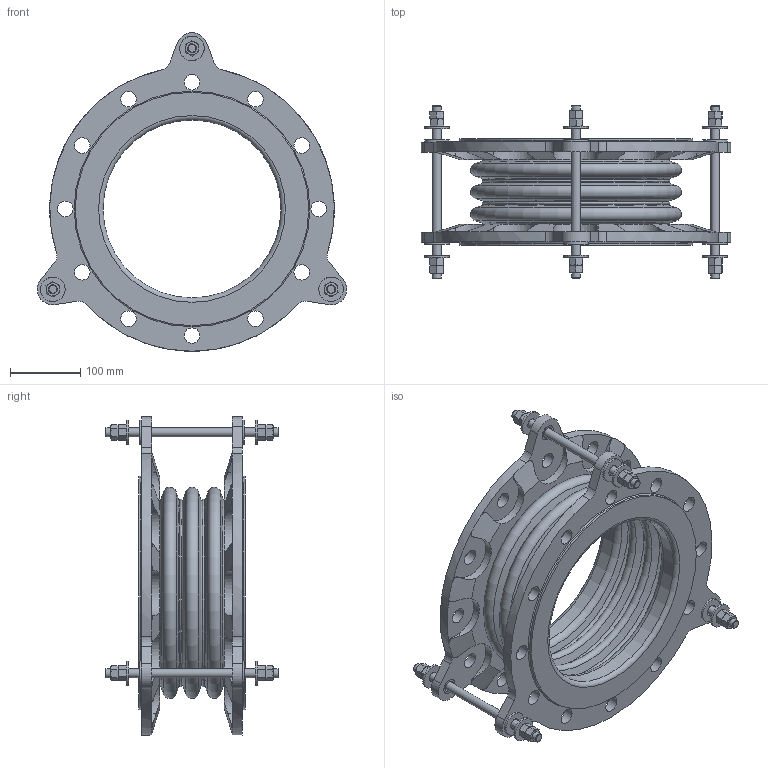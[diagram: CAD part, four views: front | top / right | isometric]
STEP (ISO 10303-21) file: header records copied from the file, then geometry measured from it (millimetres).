
FILE_DESCRIPTION(/* description */ (''),/* implementation_level */ '2;1');
FILE_NAME(/* name */ 'C:\Users\rramoutar\Desktop\803\803 10IDx6FF.stp',/* time_stamp */ '2016-04-24T17:30:37-04:00',/* author */ ('rramoutar'),/* organization */ ('Mason Industries Inc.'),/* preprocessor_version */ 'ST-DEVELOPER v15.6',/* originating_system */ 'Autodesk Inventor 2015',/* authorisation */ '');
FILE_SCHEMA (('CONFIG_CONTROL_DESIGN'));
Length unit declared in the file: inch
Products named in the file (1): 803 10IDx6FF
Bounding box: 441.77 x 247.65 x 454.82 mm (x, y, z)
Volume: 4015965.1 mm3; surface area: 929961.2 mm2
Topology: 6 solids, 12 shells, 627 faces, 1477 edges, 906 vertices
Faces by surface type: plane 212, cone 210, cylinder 179, torus 26
Full cylindrical faces by diameter (mm): 12.7 x15, 14.287 x6, 16.272 x6, 21.828 x6, 22.225 x30, 34.925 x12, 254 x2, 260.35 x2, 261.938 x2, 333.375 x2
Entity records: 18008 total; most frequent: CARTESIAN_POINT 4478, DIRECTION 2690, ORIENTED_EDGE 2592, EDGE_CURVE 1296, AXIS2_PLACEMENT_3D 1198, EDGE_LOOP 886, VERTEX_POINT 874, FACE_OUTER_BOUND 627
